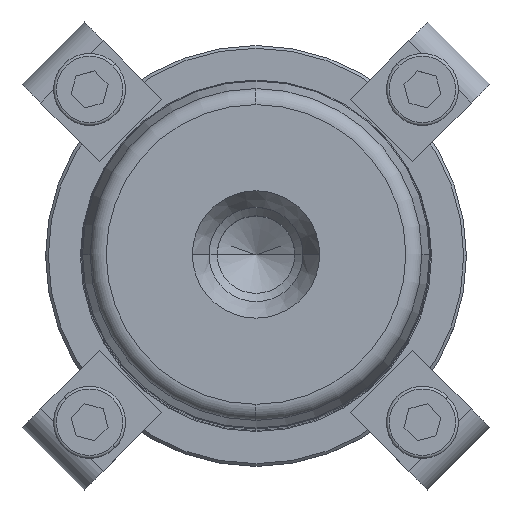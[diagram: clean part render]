
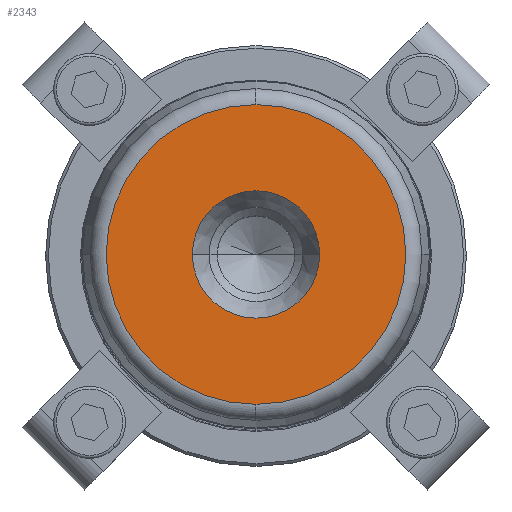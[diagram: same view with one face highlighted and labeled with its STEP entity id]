
A CAD part, top view. The second image highlights one B-rep face of the part: STEP entity #2343.
In plain terms, the highlighted planar face has unit normal (0, 0, 1).
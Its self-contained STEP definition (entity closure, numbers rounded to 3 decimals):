
#431=CARTESIAN_POINT('',(11.5,0.,160.0));
#432=VERTEX_POINT('',#431);
#439=CARTESIAN_POINT('',(-11.5,0.,160.0));
#440=VERTEX_POINT('',#439);
#441=CARTESIAN_POINT('',(0.0,0.,160.0));
#442=DIRECTION('',(0.0,0.0,1.0));
#443=DIRECTION('',(1.0,0.0,0.0));
#444=AXIS2_PLACEMENT_3D('',#441,#442,#443);
#445=CIRCLE('',#444,11.5);
#446=EDGE_CURVE('',#432,#440,#445,.T.);
#463=CARTESIAN_POINT('',(0.0,-27.054,160.0));
#464=VERTEX_POINT('',#463);
#474=CARTESIAN_POINT('',(0.,27.054,160.0));
#475=VERTEX_POINT('',#474);
#476=CARTESIAN_POINT('',(0.0,0.,160.0));
#477=DIRECTION('',(0.0,0.0,1.0));
#478=DIRECTION('',(1.0,0.0,0.0));
#479=AXIS2_PLACEMENT_3D('',#476,#477,#478);
#480=CIRCLE('',#479,27.054);
#481=EDGE_CURVE('',#475,#464,#480,.T.);
#2304=CARTESIAN_POINT('',(27.054,0.,160.0));
#2305=VERTEX_POINT('',#2304);
#2306=CARTESIAN_POINT('',(0.0,0.,160.0));
#2307=DIRECTION('',(0.0,0.0,1.0));
#2308=DIRECTION('',(1.0,0.0,0.0));
#2309=AXIS2_PLACEMENT_3D('',#2306,#2307,#2308);
#2310=CIRCLE('',#2309,27.054);
#2311=EDGE_CURVE('',#2305,#475,#2310,.T.);
#2313=CARTESIAN_POINT('',(0.0,0.,160.0));
#2314=DIRECTION('',(0.0,0.0,1.0));
#2315=DIRECTION('',(1.0,0.0,0.0));
#2316=AXIS2_PLACEMENT_3D('',#2313,#2314,#2315);
#2317=CIRCLE('',#2316,27.054);
#2318=EDGE_CURVE('',#464,#2305,#2317,.T.);
#2323=CARTESIAN_POINT('',(19.277,0.,160.0));
#2324=DIRECTION('',(0.0,0.0,1.0));
#2325=DIRECTION('',(0.0,-1.0,0.0));
#2326=AXIS2_PLACEMENT_3D('',#2323,#2324,#2325);
#2327=PLANE('',#2326);
#2328=ORIENTED_EDGE('',*,*,#2311,.T.);
#2329=ORIENTED_EDGE('',*,*,#481,.T.);
#2330=ORIENTED_EDGE('',*,*,#2318,.T.);
#2331=EDGE_LOOP('',(#2328,#2329,#2330));
#2332=FACE_OUTER_BOUND('',#2331,.T.);
#2333=ORIENTED_EDGE('',*,*,#446,.F.);
#2334=CARTESIAN_POINT('',(0.0,0.,160.0));
#2335=DIRECTION('',(0.0,0.0,1.0));
#2336=DIRECTION('',(1.0,0.0,0.0));
#2337=AXIS2_PLACEMENT_3D('',#2334,#2335,#2336);
#2338=CIRCLE('',#2337,11.5);
#2339=EDGE_CURVE('',#440,#432,#2338,.T.);
#2340=ORIENTED_EDGE('',*,*,#2339,.F.);
#2341=EDGE_LOOP('',(#2333,#2340));
#2342=FACE_BOUND('',#2341,.T.);
#2343=ADVANCED_FACE('',(#2332,#2342),#2327,.T.);
